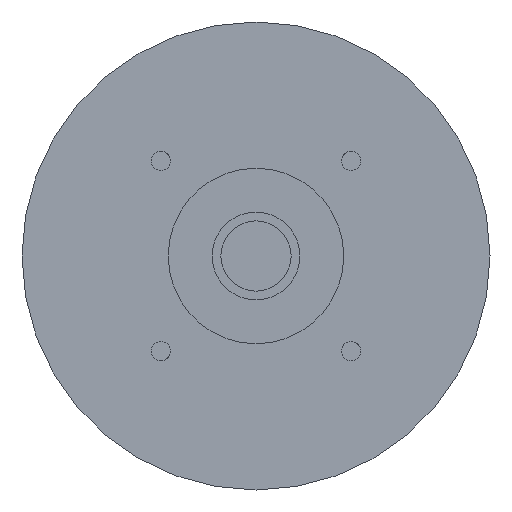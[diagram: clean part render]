
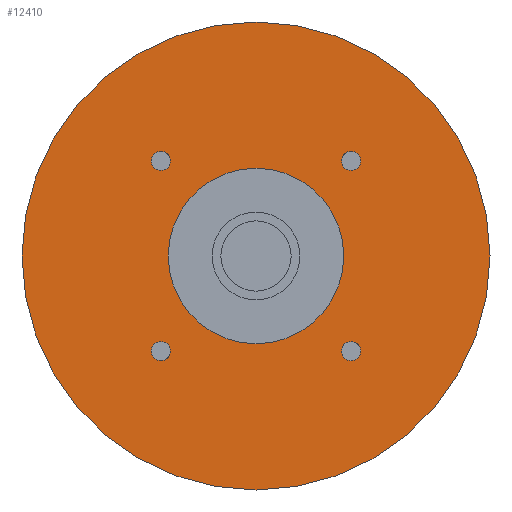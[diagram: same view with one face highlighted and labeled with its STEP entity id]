
A CAD part, left-side view. The second image highlights one B-rep face of the part: STEP entity #12410.
In plain terms, the highlighted planar face has unit normal (-1, 0, 0) as drawn and (0, 0, -1) by its records, which use the part's own axes.
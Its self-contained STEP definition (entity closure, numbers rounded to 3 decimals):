
#8640=CARTESIAN_POINT('',(14.613,-16.263,-42.2));
#8650=VERTEX_POINT('',#8640);
#8700=CARTESIAN_POINT('',(16.263,-16.263,-42.2));
#8710=DIRECTION('',(0.,0.,-1.));
#8720=DIRECTION('',(1.,0.,0.));
#8730=AXIS2_PLACEMENT_3D('',#8700,#8710,#8720);
#8740=CIRCLE('',#8730,1.65);
#8750=CARTESIAN_POINT('',(17.913,-16.263,-42.2));
#8760=VERTEX_POINT('',#8750);
#8770=EDGE_CURVE('',#8760,#8650,#8740,.T.);
#9100=CARTESIAN_POINT('',(-14.613,-16.263,-42.2));
#9110=VERTEX_POINT('',#9100);
#9160=CARTESIAN_POINT('',(-16.263,-16.263,-42.2));
#9170=DIRECTION('',(0.,0.,-1.));
#9180=DIRECTION('',(1.,0.,0.));
#9190=AXIS2_PLACEMENT_3D('',#9160,#9170,#9180);
#9200=CIRCLE('',#9190,1.65);
#9210=CARTESIAN_POINT('',(-17.913,-16.263,-42.2));
#9220=VERTEX_POINT('',#9210);
#9230=EDGE_CURVE('',#9220,#9110,#9200,.T.);
#11530=CARTESIAN_POINT('',(-40.,0.,-42.2));
#11540=VERTEX_POINT('',#11530);
#11620=CARTESIAN_POINT('',(40.,0.,-42.2));
#11630=VERTEX_POINT('',#11620);
#11660=CARTESIAN_POINT('',(0.,0.,
-42.2));
#11670=DIRECTION('',(0.,0.,1.));
#11680=DIRECTION('',(1.,0.,0.));
#11690=AXIS2_PLACEMENT_3D('',#11660,#11670,#11680);
#11700=CIRCLE('',#11690,40.);
#11710=EDGE_CURVE('',#11540,#11630,#11700,.T.);
#11760=CARTESIAN_POINT('',(0.,0.,
-42.2));
#11770=DIRECTION('',(0.,0.,-1.));
#11780=DIRECTION('',(1.,0.,0.));
#11790=AXIS2_PLACEMENT_3D('',#11760,#11770,#11780);
#11800=PLANE('',#11790);
#11810=CARTESIAN_POINT('',(-16.263,16.263,-42.2));
#11820=DIRECTION('',(0.,0.,-1.));
#11830=DIRECTION('',(1.,0.,0.));
#11840=AXIS2_PLACEMENT_3D('',#11810,#11820,#11830);
#11850=CIRCLE('',#11840,1.65);
#11860=CARTESIAN_POINT('',(-14.613,16.263,-42.2));
#11870=VERTEX_POINT('',#11860);
#11880=CARTESIAN_POINT('',(-17.913,16.263,-42.2));
#11890=VERTEX_POINT('',#11880);
#11900=EDGE_CURVE('',#11870,#11890,#11850,.T.);
#11910=ORIENTED_EDGE('',*,*,#11900,.F.);
#11920=EDGE_CURVE('',#11890,#11870,#11850,.T.);
#11930=ORIENTED_EDGE('',*,*,#11920,.F.);
#11940=EDGE_LOOP('',(#11930,#11910));
#11950=FACE_BOUND('',#11940,.T.);
#11960=CARTESIAN_POINT('',(0.,0.,
-42.2));
#11970=DIRECTION('',(0.,0.,1.));
#11980=DIRECTION('',(1.,0.,0.));
#11990=AXIS2_PLACEMENT_3D('',#11960,#11970,#11980);
#12000=CIRCLE('',#11990,15.);
#12010=CARTESIAN_POINT('',(15.,0.,-42.2));
#12020=VERTEX_POINT('',#12010);
#12030=CARTESIAN_POINT('',(-15.,0.,-42.2));
#12040=VERTEX_POINT('',#12030);
#12050=EDGE_CURVE('',#12020,#12040,#12000,.T.);
#12060=ORIENTED_EDGE('',*,*,#12050,.T.);
#12070=EDGE_CURVE('',#12040,#12020,#12000,.T.);
#12080=ORIENTED_EDGE('',*,*,#12070,.T.);
#12090=EDGE_LOOP('',(#12080,#12060));
#12100=FACE_BOUND('',#12090,.T.);
#12110=CARTESIAN_POINT('',(16.263,16.263,-42.2));
#12120=DIRECTION('',(0.,0.,-1.));
#12130=DIRECTION('',(1.,0.,0.));
#12140=AXIS2_PLACEMENT_3D('',#12110,#12120,#12130);
#12150=CIRCLE('',#12140,1.65);
#12160=CARTESIAN_POINT('',(17.913,16.263,-42.2));
#12170=VERTEX_POINT('',#12160);
#12180=CARTESIAN_POINT('',(14.613,16.263,-42.2));
#12190=VERTEX_POINT('',#12180);
#12200=EDGE_CURVE('',#12170,#12190,#12150,.T.);
#12210=ORIENTED_EDGE('',*,*,#12200,.F.);
#12220=EDGE_CURVE('',#12190,#12170,#12150,.T.);
#12230=ORIENTED_EDGE('',*,*,#12220,.F.);
#12240=EDGE_LOOP('',(#12230,#12210));
#12250=FACE_BOUND('',#12240,.T.);
#12260=ORIENTED_EDGE('',*,*,#8770,.F.);
#12270=EDGE_CURVE('',#8650,#8760,#8740,.T.);
#12280=ORIENTED_EDGE('',*,*,#12270,.F.);
#12290=EDGE_LOOP('',(#12280,#12260));
#12300=FACE_BOUND('',#12290,.T.);
#12310=EDGE_CURVE('',#9110,#9220,#9200,.T.);
#12320=ORIENTED_EDGE('',*,*,#12310,.F.);
#12330=ORIENTED_EDGE('',*,*,#9230,.F.);
#12340=EDGE_LOOP('',(#12330,#12320));
#12350=FACE_BOUND('',#12340,.T.);
#12360=EDGE_CURVE('',#11630,#11540,#11700,.T.);
#12370=ORIENTED_EDGE('',*,*,#12360,.F.);
#12380=ORIENTED_EDGE('',*,*,#11710,.F.);
#12390=EDGE_LOOP('',(#12380,#12370));
#12400=FACE_OUTER_BOUND('',#12390,.T.);
#12410=ADVANCED_FACE('',(#11950,#12100,#12250,#12300,#12350,#12400),
#11800,.T.);
